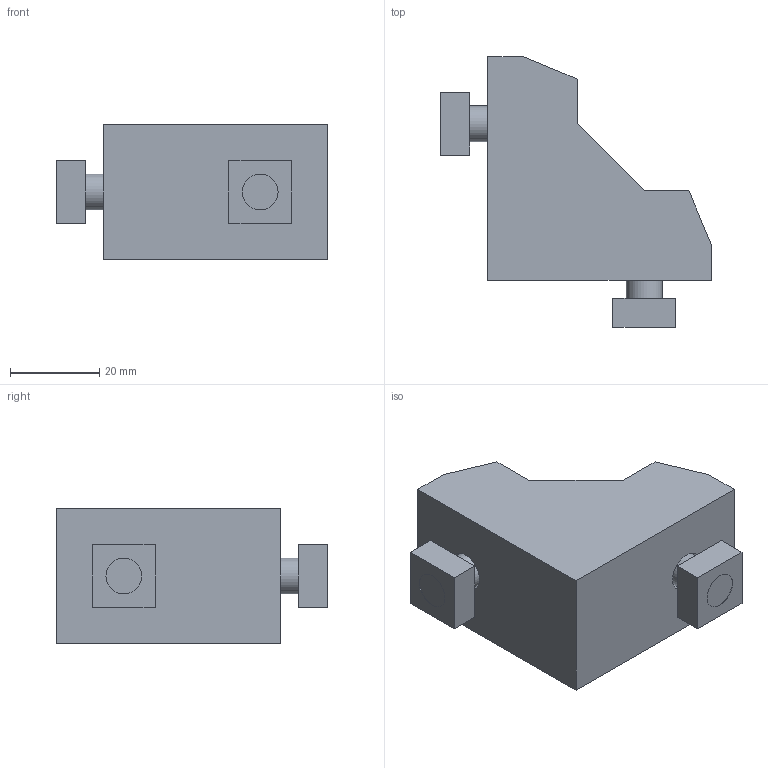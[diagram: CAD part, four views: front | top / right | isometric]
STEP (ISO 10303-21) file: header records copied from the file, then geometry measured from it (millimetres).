
FILE_DESCRIPTION((''),'2;1');
FILE_NAME('C:\Documents and Settings\古川典政\My Documents\Inventor\HP用\MasterData\BRACKET\M8\ABLD-40-8.stp','2008-07-31T10:53:25',(''),(''),'Autodesk Inventor 2008','Autodesk Inventor 2008','');
FILE_SCHEMA(('CONFIG_CONTROL_DESIGN'));
Length unit declared in the file: millimetre
Products named in the file (6): ABLD-40-8; ABLD-40-81; ABLD-40-82; ABLD-40-83; ABLD-40-84; ABLD-40-85
Assembly tree (5 placements, depth 2):
  ABLD-40-8
    ABLD-40-81
    ABLD-40-82
    ABLD-40-83
    ABLD-40-84
    ABLD-40-85
Bounding box: 60.5 x 60.5 x 30 mm (x, y, z)
Volume: 33990.1 mm3; surface area: 16152.2 mm2
Topology: 5 solids, 5 shells, 64 faces, 150 edges, 102 vertices
Faces by surface type: plane 54, cylinder 6, bspline 4
Full cylindrical faces by diameter (mm): 8 x2, 8.4 x2, 18 x2
Entity records: 1945 total; most frequent: CARTESIAN_POINT 373, DIRECTION 296, ORIENTED_EDGE 268, EDGE_CURVE 134, VECTOR 114, LINE 114, VERTEX_POINT 96, AXIS2_PLACEMENT_3D 91
